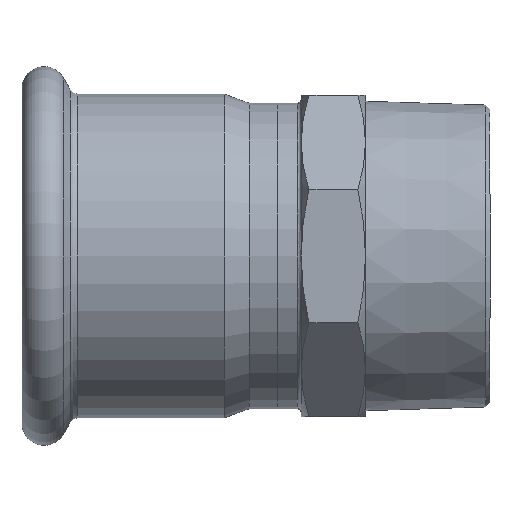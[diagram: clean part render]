
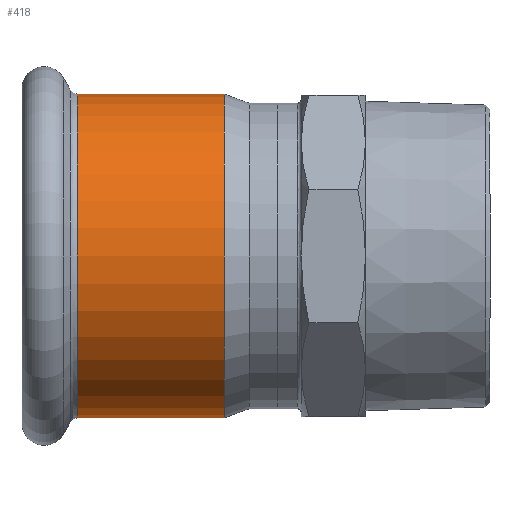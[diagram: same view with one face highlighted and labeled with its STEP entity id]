
A CAD part, front view. The second image highlights one B-rep face of the part: STEP entity #418.
In plain terms, the highlighted cylindrical face has radius 40.3 mm (diameter 80.6 mm), a full revolution.
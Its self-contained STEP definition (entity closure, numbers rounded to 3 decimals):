
#367=CARTESIAN_POINT('',(-49.715,40.3,0.));
#368=VERTEX_POINT('',#367);
#369=CARTESIAN_POINT('',(-49.715,0.,0.0));
#370=DIRECTION('',(-1.0,0.0,0.0));
#371=DIRECTION('',(0.0,-1.0,0.0));
#372=AXIS2_PLACEMENT_3D('',#369,#370,#371);
#373=CIRCLE('',#372,40.3);
#374=EDGE_CURVE('',#368,#368,#373,.T.);
#399=CARTESIAN_POINT('',(-32.009,0.,0.0));
#400=DIRECTION('',(1.0,0.,0.0));
#401=DIRECTION('',(0.0,1.0,0.0));
#402=AXIS2_PLACEMENT_3D('',#399,#400,#401);
#403=CYLINDRICAL_SURFACE('',#402,40.3);
#404=CARTESIAN_POINT('',(-13.147,40.3,0.0));
#405=VERTEX_POINT('',#404);
#406=CARTESIAN_POINT('',(-13.147,0.,0.0));
#407=DIRECTION('',(1.0,0.0,0.0));
#408=DIRECTION('',(0.0,1.0,0.0));
#409=AXIS2_PLACEMENT_3D('',#406,#407,#408);
#410=CIRCLE('',#409,40.3);
#411=EDGE_CURVE('',#405,#405,#410,.T.);
#412=ORIENTED_EDGE('',*,*,#411,.F.);
#413=EDGE_LOOP('',(#412));
#414=FACE_OUTER_BOUND('',#413,.T.);
#415=ORIENTED_EDGE('',*,*,#374,.F.);
#416=EDGE_LOOP('',(#415));
#417=FACE_BOUND('',#416,.T.);
#418=ADVANCED_FACE('',(#414,#417),#403,.T.);
